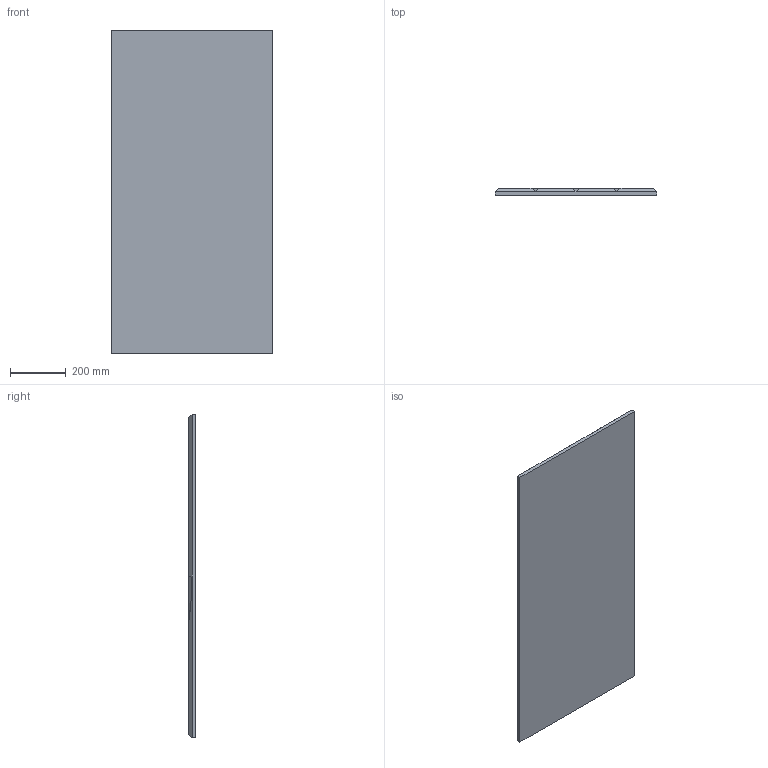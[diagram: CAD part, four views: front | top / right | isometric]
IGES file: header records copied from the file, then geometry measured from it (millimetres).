
Start section: SolidWorks IGES file using analytic representation for surfaces
Global section: file name: X:\FUWL Studio\01 CLIENTS\Baux\Industrial design\Panels\180109_BAUX_Panels-curve_1.IGS; native system: SolidWorks 2014; preprocessor: SolidWorks 2014; author: Mac Pro; date: 180109.150259; units: millimetre
Bounding box: 580 x 25 x 1160 mm (x, y, z)
Surface area: 1445325.2 mm2 (no closed solid volume)
Topology: 0 solids, 0 shells, 35 faces, 278 edges, 278 vertices
Faces by surface type: bspline 27, revolution 8
